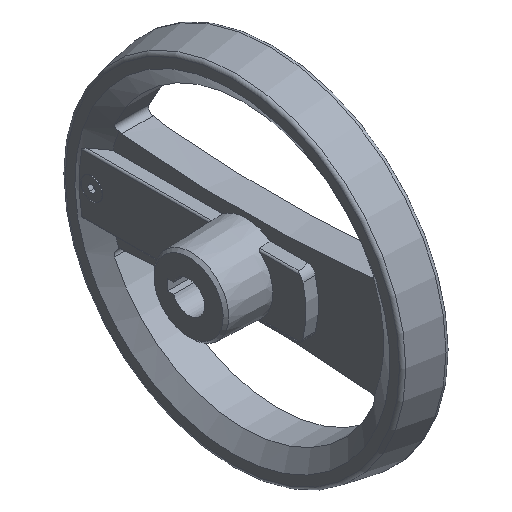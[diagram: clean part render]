
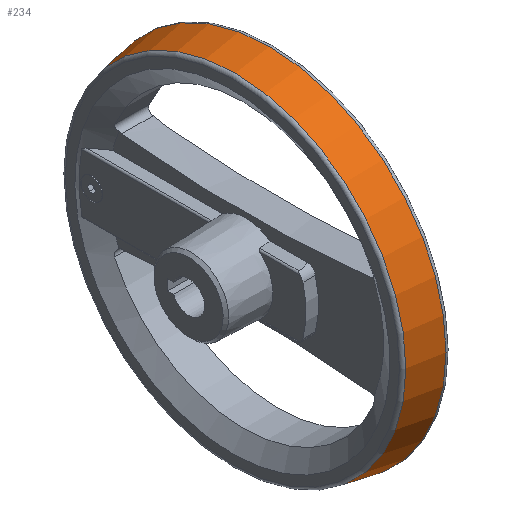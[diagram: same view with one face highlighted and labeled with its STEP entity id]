
A CAD part, isometric view. The second image highlights one B-rep face of the part: STEP entity #234.
In plain terms, the highlighted conical face has half-angle 9.986 degrees and reference radius 96.36 mm.
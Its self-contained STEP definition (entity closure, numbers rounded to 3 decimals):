
#234 = ADVANCED_FACE( '', ( #421, #422 ), #423, .T. );
#421 = FACE_OUTER_BOUND( '', #673, .T. );
#422 = FACE_BOUND( '', #674, .T. );
#423 = CONICAL_SURFACE( '', #675, 96.36, 0.174 );
#673 = EDGE_LOOP( '', ( #1281 ) );
#674 = EDGE_LOOP( '', ( #1282 ) );
#675 = AXIS2_PLACEMENT_3D( '', #1283, #1284, #1285 );
#1281 = ORIENTED_EDGE( '', *, *, #1746, .F. );
#1282 = ORIENTED_EDGE( '', *, *, #1747, .T. );
#1283 = CARTESIAN_POINT( '', ( 26.353, 0., 0. ) );
#1284 = DIRECTION( '', ( 1., 0., 0. ) );
#1285 = DIRECTION( '', ( 0., 0., -1. ) );
#1746 = EDGE_CURVE( '', #2113, #2113, #2114, .T. );
#1747 = EDGE_CURVE( '', #2115, #2115, #2116, .T. );
#2113 = VERTEX_POINT( '', #3018 );
#2114 = CIRCLE( '', #3019, 99.76 );
#2115 = VERTEX_POINT( '', #3020 );
#2116 = CIRCLE( '', #3021, 96.36 );
#3018 = CARTESIAN_POINT( '', ( 45.663, 0., -99.76 ) );
#3019 = AXIS2_PLACEMENT_3D( '', #3384, #3385, #3386 );
#3020 = CARTESIAN_POINT( '', ( 26.353, 0., -96.36 ) );
#3021 = AXIS2_PLACEMENT_3D( '', #3387, #3388, #3389 );
#3384 = CARTESIAN_POINT( '', ( 45.663, 0., 0. ) );
#3385 = DIRECTION( '', ( 1., 0., 0. ) );
#3386 = DIRECTION( '', ( 0., 0., -1. ) );
#3387 = CARTESIAN_POINT( '', ( 26.353, 0., 0. ) );
#3388 = DIRECTION( '', ( 1., 0., 0. ) );
#3389 = DIRECTION( '', ( 0., 0., -1. ) );
